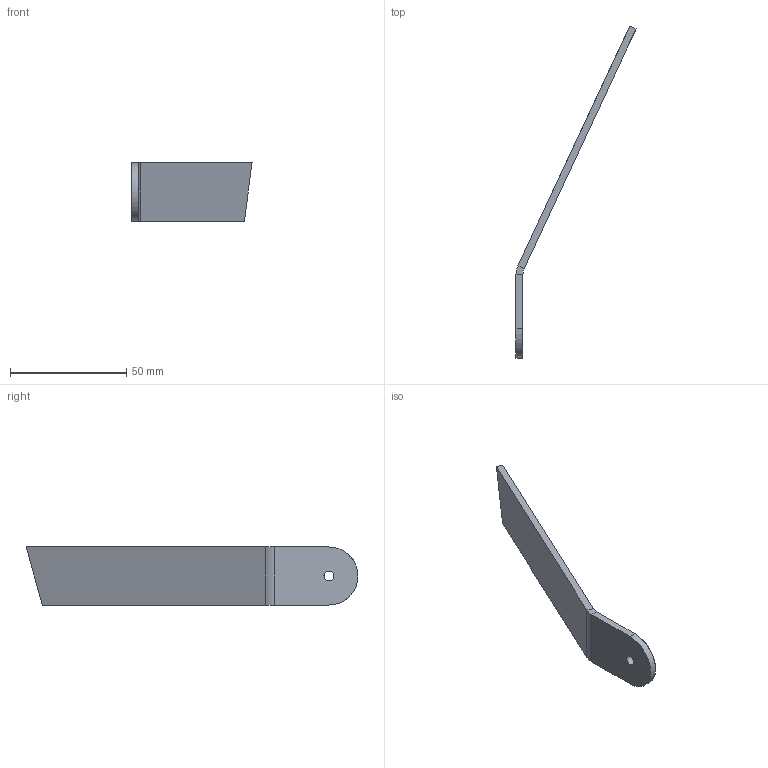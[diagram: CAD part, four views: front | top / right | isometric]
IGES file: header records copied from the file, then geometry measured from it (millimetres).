
Start section: START RECORD GO HERE.
Global section: file name: 20M_FR_09004 (bracket downright).igs; native system: IBM CATIA IGES - CATIA Version 5 Release 19 ; preprocessor: CATIA Version 5 Release 19 ; author: Mathieu; organization: HUSTON-DESKTOP; date: 20200118.112619; units: millimetre
Bounding box: 51.71 x 142.99 x 25 mm (x, y, z)
Surface area: 8355.7 mm2 (no closed solid volume)
Topology: 0 solids, 0 shells, 16 faces, 68 edges, 68 vertices
Faces by surface type: plane 11, revolution 5
